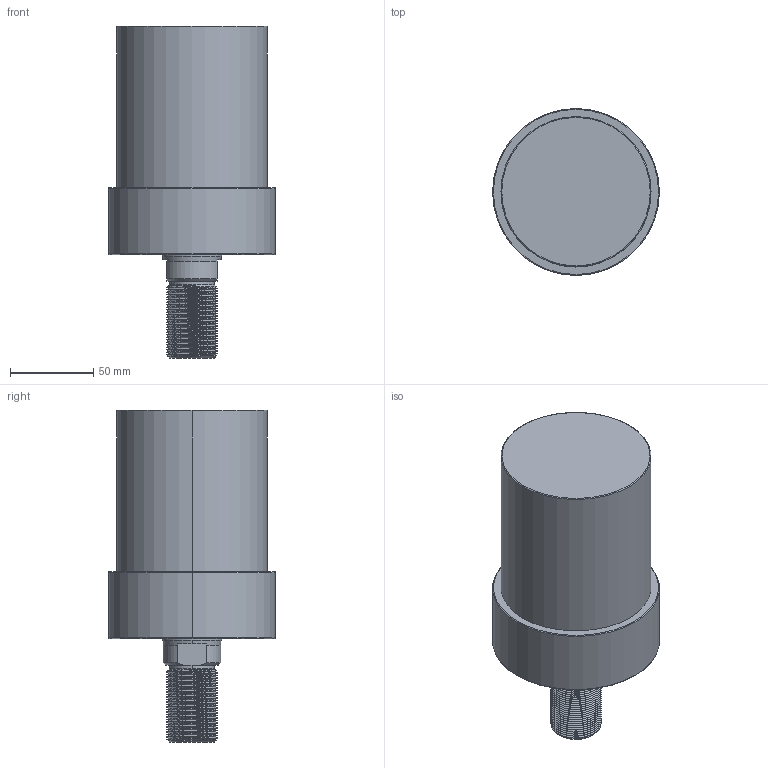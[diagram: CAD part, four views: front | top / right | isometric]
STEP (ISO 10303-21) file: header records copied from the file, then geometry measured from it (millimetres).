
FILE_DESCRIPTION (( 'STEP AP203' ), '1' );
FILE_NAME ('CLLU-090GT-075.STEP', '2020-01-13T03:01:39', ( '' ), ( '' ), 'SwSTEP 2.0', 'SolidWorks 2015', '' );
FILE_SCHEMA (( 'CONFIG_CONTROL_DESIGN' ));
Length unit declared in the file: millimetre
Products named in the file (1): CLLU-090GT-075
Bounding box: 100 x 100 x 199 mm (x, y, z)
Volume: 969741.4 mm3; surface area: 67278.3 mm2
Topology: 1 solids, 1 shells, 123 faces, 321 edges, 201 vertices
Faces by surface type: cylinder 78, cone 26, plane 11, torus 6, bspline 2
Entity records: 7138 total; most frequent: CARTESIAN_POINT 4403, ORIENTED_EDGE 626, DIRECTION 501, EDGE_CURVE 313, VERTEX_POINT 201, AXIS2_PLACEMENT_3D 197, EDGE_LOOP 132, ADVANCED_FACE 123
